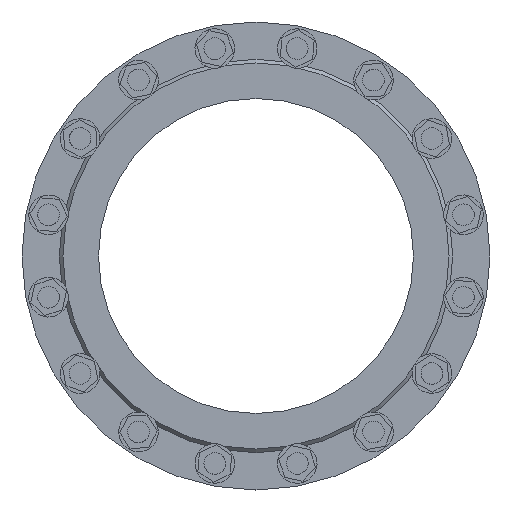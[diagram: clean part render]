
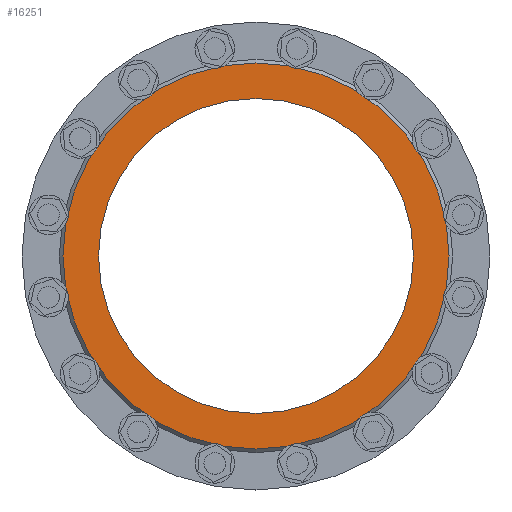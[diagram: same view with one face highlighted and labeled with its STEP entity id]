
A CAD part, left-side view. The second image highlights one B-rep face of the part: STEP entity #16251.
In plain terms, the highlighted planar face has unit normal (-1, 0, 0).
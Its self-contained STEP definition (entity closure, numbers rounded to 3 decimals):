
#1428 = DIRECTION ( 'NONE',  ( 1., 0., 0. ) ) ;
#1453 = CARTESIAN_POINT ( 'NONE',  ( -65., 0., 175. ) ) ;
#3958 = AXIS2_PLACEMENT_3D ( 'NONE', #25114, #13658, #15428 ) ;
#8766 = ORIENTED_EDGE ( 'NONE', *, *, #19552, .T. ) ;
#8861 = AXIS2_PLACEMENT_3D ( 'NONE', #18873, #1428, #9203 ) ;
#9203 = DIRECTION ( 'NONE',  ( 0., 0., -1. ) ) ;
#10899 = PLANE ( 'NONE',  #18871 ) ;
#10915 = ORIENTED_EDGE ( 'NONE', *, *, #19401, .T. ) ;
#11700 = CARTESIAN_POINT ( 'NONE',  ( -65., 0., -175. ) ) ;
#12804 = FACE_BOUND ( 'NONE', #18291, .T. ) ;
#13658 = DIRECTION ( 'NONE',  ( -1., 0., 0. ) ) ;
#13730 = VERTEX_POINT ( 'NONE', #21496 ) ;
#14710 = FACE_OUTER_BOUND ( 'NONE', #23419, .T. ) ;
#14931 = CIRCLE ( 'NONE', #3958, 214.5 ) ;
#15428 = DIRECTION ( 'NONE',  ( 0., -1., 0. ) ) ;
#16251 = ADVANCED_FACE ( 'NONE', ( #12804, #14710 ), #10899, .F. ) ;
#16578 = CIRCLE ( 'NONE', #8861, 175. ) ;
#18291 = EDGE_LOOP ( 'NONE', ( #10915 ) ) ;
#18871 = AXIS2_PLACEMENT_3D ( 'NONE', #1453, #20574, #24398 ) ;
#18873 = CARTESIAN_POINT ( 'NONE',  ( -65., 0., 0. ) ) ;
#19401 = EDGE_CURVE ( 'NONE', #23281, #23281, #16578, .T. ) ;
#19552 = EDGE_CURVE ( 'NONE', #13730, #13730, #14931, .T. ) ;
#20574 = DIRECTION ( 'NONE',  ( 1., 0., 0. ) ) ;
#21496 = CARTESIAN_POINT ( 'NONE',  ( -65., -214.5, 0. ) ) ;
#23281 = VERTEX_POINT ( 'NONE', #11700 ) ;
#23419 = EDGE_LOOP ( 'NONE', ( #8766 ) ) ;
#24398 = DIRECTION ( 'NONE',  ( 0., 1., 0. ) ) ;
#25114 = CARTESIAN_POINT ( 'NONE',  ( -65., 0., 0. ) ) ;
